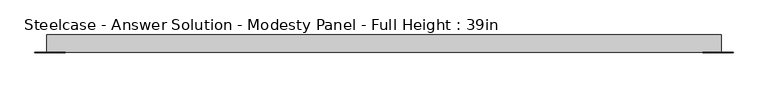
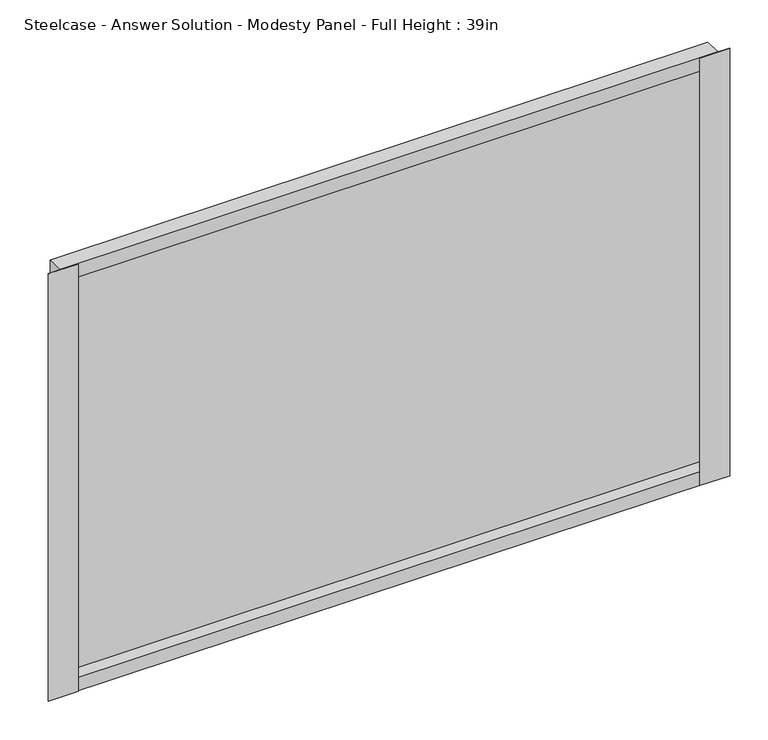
"""IFC4 building model written with IfcOpenShell, lengths in millimetres: furniture geometry, Steelcase - Answer Solution - Modesty Panel - Full Height : 39in."""

from ifc_helpers import new_model, si_unit, frame, origin, place, context, project, spatial, polyline, outline, extrude, faceted_brep, source, transform, mapped, element, save


def steelcase_answer_solution_modesty_panel_full_height_39in_1fd3dfdf(model_context):
    return source(origin(), model_context, "Body", "SolidModel", [
        extrude(outline(polyline([(1534.1400478, -14.2668826), (1534.1400478, -15.0593624), (1489.7248254, -15.0593624), (1489.7248254, -14.2668826), (1534.1400478, -14.2668826)])), frame((0.0, 0.0, 17.653), z_axis=(0.0, 0.0, 1.0), x_axis=(1.0, 0.0, 0.0)), (0.0, 0.0, 1.0), 678.18),
        extrude(outline(polyline([(556.9673392, -14.2668826), (556.9673392, -15.0593624), (512.5520826, -15.0593624), (512.5520826, -14.2668826), (556.9673392, -14.2668826)])), frame((0.0, 0.0, 17.653), z_axis=(0.0, 0.0, 1.0), x_axis=(1.0, 0.0, 0.0)), (0.0, 0.0, 1.0), 678.18),
        faceted_brep([(530.0780827, 10.9045177, 17.653), (530.0780827, -14.2668826, 17.653), (530.0780827, -14.2668826, 695.833), (530.0780827, 10.9045177, 695.833), (1516.6140827, -14.2668826, 17.653), (1516.6140827, 10.9045177, 17.653), (1516.6140827, 10.9045177, 695.833), (1516.6140827, -14.2668826, 695.833), (1515.8216165, 4.7831174, 39.243), (530.8705628, 4.7831174, 39.243), (530.8705628, -14.2668826, 39.243), (1515.8216165, -14.2668826, 39.243), (530.8705628, -14.2668826, 674.243), (1515.8216165, -14.2668826, 674.243), (530.8705628, 4.7831174, 674.243), (1515.8216165, 4.7831174, 674.243)], [[[0, 1, 2, 3]], [[4, 5, 6, 7]], [[8, 9, 10, 11]], [[0, 3, 6, 5]], [[4, 1, 0, 5]], [[2, 1, 4, 7], [10, 12, 13, 11]], [[3, 2, 7, 6]], [[14, 15, 13, 12]], [[9, 8, 15, 14]], [[12, 10, 9, 14]], [[11, 13, 15, 8]]]),
    ])


if __name__ == "__main__":
    model = new_model("IFC4")
    model_context = context("Model", 3, world=origin())
    ifc_project = project(units=[si_unit("LENGTHUNIT", "METRE", prefix="MILLI")], contexts=[model_context])
    site = spatial("IfcSite", under=ifc_project)
    building = spatial("IfcBuilding", under=site)
    placement = place(None, origin())
    steelcase_answer_solution_modesty_panel_full_height_39in_shape = steelcase_answer_solution_modesty_panel_full_height_39in_1fd3dfdf(model_context)
    element("IfcFurniture", 1, ObjectType="Steelcase - Answer Solution - Modesty Panel - Full Height : 39in", at=placement, inside=building, context=model_context, shape_type="MappedRepresentation", body=[
        mapped(steelcase_answer_solution_modesty_panel_full_height_39in_shape, transform((0.0, 0.0, 0.0), x_axis=(1.0, 0.0, 0.0), y_axis=(0.0, 1.0, 0.0), z_axis=(0.0, 0.0, 1.0))),
    ])
    save(model, "model.ifc")
